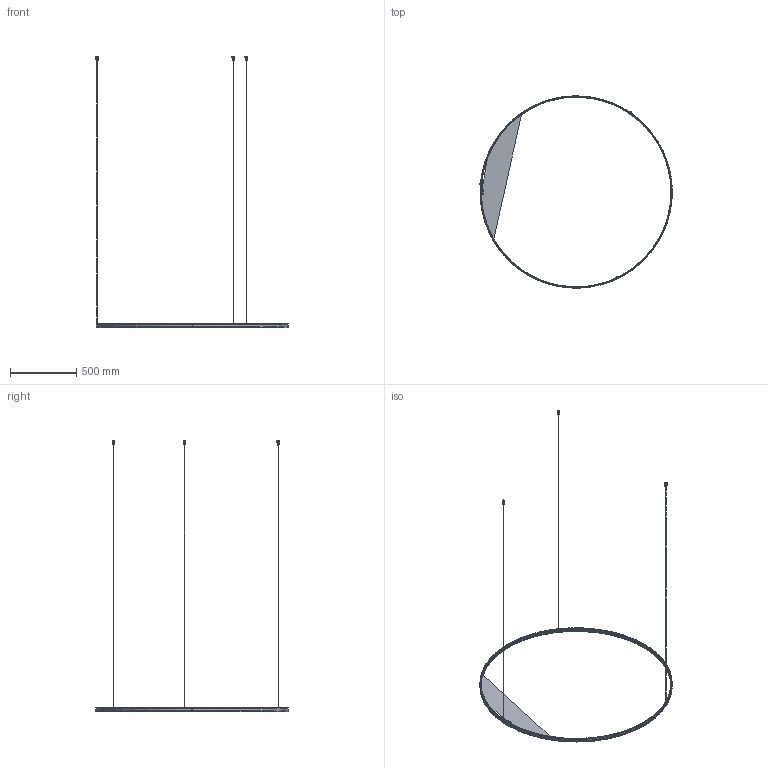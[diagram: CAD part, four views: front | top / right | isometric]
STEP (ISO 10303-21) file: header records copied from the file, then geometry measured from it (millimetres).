
FILE_DESCRIPTION(/* description */ (''),/* implementation_level */ '2;1');
FILE_NAME(/* name */ 'Zero Round M153__.150',/* time_stamp */ '2025-05-29T10:57:05+02:00',/* author */ (''),/* organization */ (''),/* preprocessor_version */ 'ST-DEVELOPER v16.5',/* originating_system */ '',/* authorisation */ '');
FILE_SCHEMA (('AUTOMOTIVE_DESIGN'));
Length unit declared in the file: millimetre
Products named in the file (9): Document; 5402.0001000.00 (fune ACC 19 fili D 1,2mm con cilindro terminale 3x3m
m)_5402.0001200.00; 3300.0298000.00 (manicotto per sospensione singola ALL D 20mm H 32mm 
con foro M10x1)_3302.0298000.00; 5200.0002000.00 (dispositivo regolazione fune OTTONE nichelato con in
nesto maschio M10 L 14mm)_5200.0002000.00; 3300.0321000.00 (profilo curvo Zero Round sospensione ALL 7,7x30mm D 
est. 1455mm)_3306.0321360.00; 3100.0072000.00 (schermo estruso Giplast 09PE79 PC 19x3,8mm per curva
 D int. 1437mm)_3101.0072360.98; 3200.0200002.00 (copertura giunzione con foro M8 ACC 60,2x18,7mm H 23
mm sp 1)_3209.0200002.00; 5205.0004007.00 (nipplo D 10mm sp 2 gambo H 7mm M8x1 PC trasparente S
teab 5475-3-07-011)_5205.0004007.00; 5401.0016000.00 (molla in nastro sagomata ACC INOX 5x31x5mm sp 0,4)_5
401.0016000.00
Assembly tree (14 placements, depth 2):
  Document
    5402.0001000.00 (fune ACC 19 fili D 1,2mm con cilindro terminale 3x3m
m)_5402.0001200.00  x3
    3300.0298000.00 (manicotto per sospensione singola ALL D 20mm H 32mm 
con foro M10x1)_3302.0298000.00  x3
    5200.0002000.00 (dispositivo regolazione fune OTTONE nichelato con in
nesto maschio M10 L 14mm)_5200.0002000.00  x3
    3300.0321000.00 (profilo curvo Zero Round sospensione ALL 7,7x30mm D 
est. 1455mm)_3306.0321360.00
    3100.0072000.00 (schermo estruso Giplast 09PE79 PC 19x3,8mm per curva
 D int. 1437mm)_3101.0072360.98
    3200.0200002.00 (copertura giunzione con foro M8 ACC 60,2x18,7mm H 23
mm sp 1)_3209.0200002.00
    5205.0004007.00 (nipplo D 10mm sp 2 gambo H 7mm M8x1 PC trasparente S
teab 5475-3-07-011)_5205.0004007.00
    5401.0016000.00 (molla in nastro sagomata ACC INOX 5x31x5mm sp 0,4)_5
401.0016000.00
Bounding box: 1457.73 x 1455 x 2055.45 mm (x, y, z)
Volume: 823519.2 mm3; surface area: 657053.1 mm2
Topology: 20 solids, 20 shells, 615 faces, 1498 edges, 927 vertices
Faces by surface type: bspline 472, plane 143
Entity records: 24703 total; most frequent: CARTESIAN_POINT 18543, ORIENTED_EDGE 2068, EDGE_CURVE 1034, VERTEX_POINT 631, B_SPLINE_CURVE_WITH_KNOTS 472, EDGE_LOOP 439, ADVANCED_FACE 421, FACE_OUTER_BOUND 421
